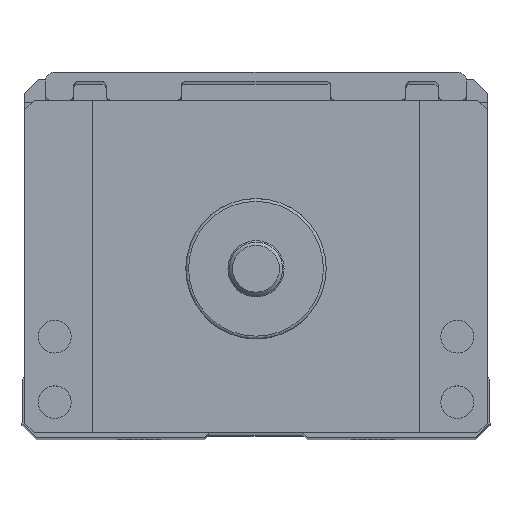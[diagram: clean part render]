
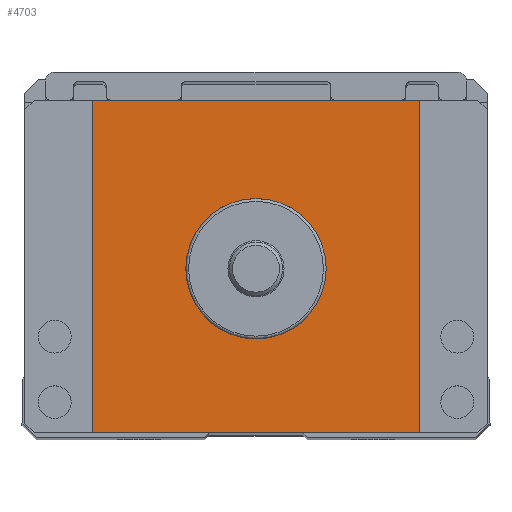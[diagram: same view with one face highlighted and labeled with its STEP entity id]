
A CAD part, top view. The second image highlights one B-rep face of the part: STEP entity #4703.
In plain terms, the highlighted planar face has unit normal (0, 0, 1).
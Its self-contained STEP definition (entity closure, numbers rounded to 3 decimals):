
#3604=FACE_BOUND('',#6215,.T.);
#3605=FACE_BOUND('',#6216,.T.);
#4249=CIRCLE('',#14693,7.5);
#4703=ADVANCED_FACE('',(#3604,#3605),#5334,.T.);
#5334=PLANE('',#14694);
#6215=EDGE_LOOP('',(#7268));
#6216=EDGE_LOOP('',(#7269,#7270,#7271,#7272));
#7268=ORIENTED_EDGE('',*,*,#11324,.T.);
#7269=ORIENTED_EDGE('',*,*,#11325,.T.);
#7270=ORIENTED_EDGE('',*,*,#11326,.T.);
#7271=ORIENTED_EDGE('',*,*,#11321,.T.);
#7272=ORIENTED_EDGE('',*,*,#11327,.T.);
#10218=VERTEX_POINT('',#19116);
#10219=VERTEX_POINT('',#19118);
#10221=VERTEX_POINT('',#19124);
#10222=VERTEX_POINT('',#19126);
#10223=VERTEX_POINT('',#19127);
#11321=EDGE_CURVE('',#10219,#10218,#12818,.T.);
#11324=EDGE_CURVE('',#10221,#10221,#4249,.T.);
#11325=EDGE_CURVE('',#10222,#10223,#12820,.T.);
#11326=EDGE_CURVE('',#10223,#10219,#12821,.T.);
#11327=EDGE_CURVE('',#10218,#10222,#12822,.T.);
#12818=LINE('',#19117,#13737);
#12820=LINE('',#19125,#13739);
#12821=LINE('',#19128,#13740);
#12822=LINE('',#19129,#13741);
#13737=VECTOR('',#15976,1.);
#13739=VECTOR('',#15984,1.);
#13740=VECTOR('',#15985,1.);
#13741=VECTOR('',#15986,1.);
#14693=AXIS2_PLACEMENT_3D('',#19123,#15982,#15983);
#14694=AXIS2_PLACEMENT_3D('',#19130,#15987,#15988);
#15976=DIRECTION('',(-1.,0.,0.));
#15982=DIRECTION('',(0.,0.,-1.));
#15983=DIRECTION('',(1.,0.,0.));
#15984=DIRECTION('',(1.,0.,0.));
#15985=DIRECTION('',(0.,1.,0.));
#15986=DIRECTION('',(0.,-1.,0.));
#15987=DIRECTION('',(0.,0.,1.));
#15988=DIRECTION('',(1.,0.,0.));
#19116=CARTESIAN_POINT('',(282.5,-4.5,1.5));
#19117=CARTESIAN_POINT('',(324.7,-4.5,1.5));
#19118=CARTESIAN_POINT('',(317.5,-4.5,1.5));
#19123=CARTESIAN_POINT('',(300.,-22.5,1.5));
#19124=CARTESIAN_POINT('',(307.5,-22.5,1.5));
#19125=CARTESIAN_POINT('',(275.3,-40.,1.5));
#19126=CARTESIAN_POINT('',(282.5,-40.,1.5));
#19127=CARTESIAN_POINT('',(317.5,-40.,1.5));
#19128=CARTESIAN_POINT('',(317.5,-40.,1.5));
#19129=CARTESIAN_POINT('',(282.5,-40.,1.5));
#19130=CARTESIAN_POINT('',(324.7,-40.,1.5));
